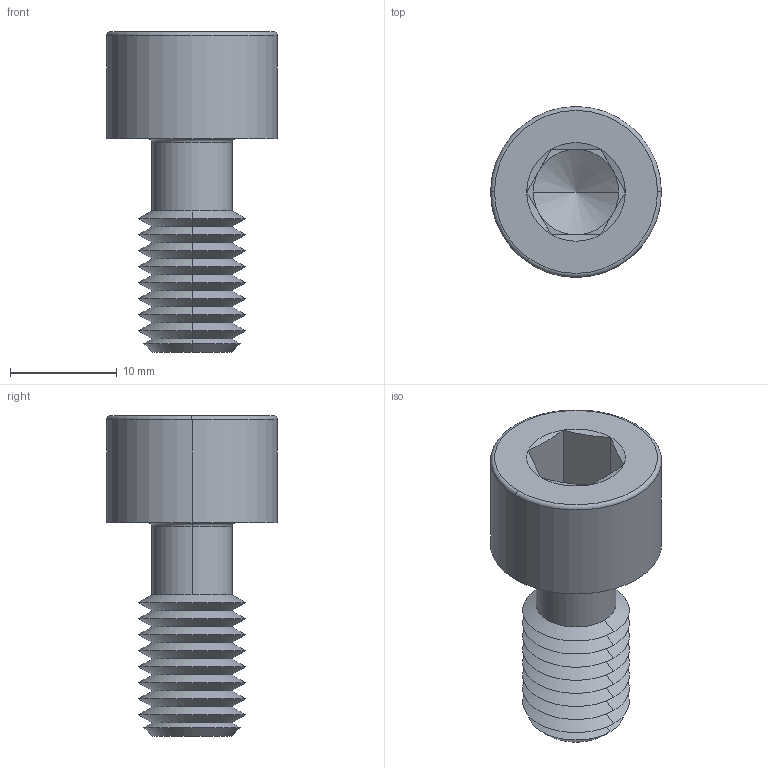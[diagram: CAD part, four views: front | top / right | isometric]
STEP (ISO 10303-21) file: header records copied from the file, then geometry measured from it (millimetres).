
FILE_DESCRIPTION (( 'STEP AP203' ), '1' );
FILE_NAME ('P0154.100-020-BL.step', '2024-06-17T11:33:21', ( '' ), ( '' ), 'SwSTEP 2.0', 'SolidWorks 2019', '' );
FILE_SCHEMA (( 'CONFIG_CONTROL_DESIGN' ));
Length unit declared in the file: millimetre
Products named in the file (1): P0154.100-020-BL
Bounding box: 16 x 16 x 30 mm (x, y, z)
Volume: 2610.3 mm3; surface area: 1985.9 mm2
Topology: 1 solids, 1 shells, 67 faces, 136 edges, 71 vertices
Faces by surface type: cone 44, plane 15, torus 4, cylinder 4
Entity records: 1791 total; most frequent: DIRECTION 332, CARTESIAN_POINT 303, ORIENTED_EDGE 268, AXIS2_PLACEMENT_3D 136, EDGE_CURVE 134, VERTEX_POINT 71, EDGE_LOOP 69, CIRCLE 68
